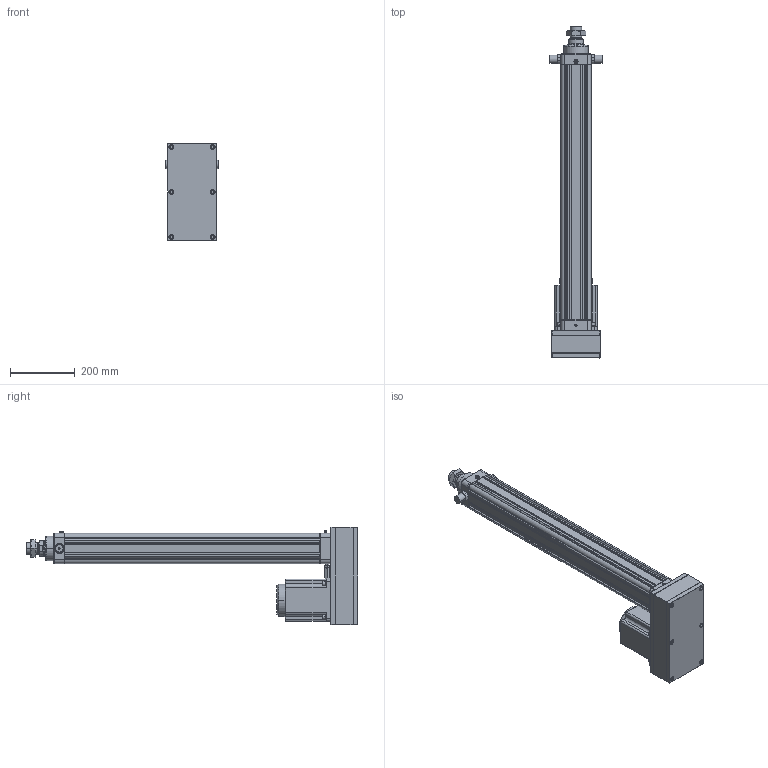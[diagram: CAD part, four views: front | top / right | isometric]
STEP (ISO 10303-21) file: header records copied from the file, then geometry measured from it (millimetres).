
FILE_DESCRIPTION((''),'2;1');
FILE_NAME('HE80-D-P_ASM','2020-05-13T',('ASUS20200'),(''),'CREO PARAMETRIC BY PTC INC, 2014190','CREO PARAMETRIC BY PTC INC, 2014190','');
FILE_SCHEMA(('CONFIG_CONTROL_DESIGN'));
Length unit declared in the file: millimetre
Products named in the file (26): HE80-D-P-001-X1; HE80-D-P-002-X1; HE80-D-P-003-X1; 30304J; YZ-M6X1; SLM-01; JDB506030; HE80-100-D-P-X1_ASM; HE80-P-010-X1-130N; 130ST-M10010; M10X25; HE80-P-009-X1-130N; HE80-P-013-X1-130N; TD-8; M8X35; M8X75; LM-M8-7-5; M10X1-25-40; LM-M10-30; LM-M10; HE80-D-P-005-X1; HE80-D-P-004-X1; HE80-D-P-008-X1; LGLM-M10-25; HE80-TC; HE80-D-P_ASM
Assembly tree (47 placements, depth 3):
  HE80-D-P_ASM
    HE80-100-D-P-X1_ASM
      HE80-D-P-001-X1
      HE80-D-P-002-X1
      HE80-D-P-003-X1
      30304J  x2
      YZ-M6X1
      SLM-01
      JDB506030
    HE80-P-010-X1-130N
    130ST-M10010
    M10X25  x4
    HE80-P-009-X1-130N
    HE80-P-013-X1-130N
    TD-8  x4
    M8X35  x4
    M8X75  x6
    LM-M8-7-5  x4
    M10X1-25-40
    LM-M10-30
    LM-M10
    HE80-D-P-005-X1
    HE80-D-P-004-X1
    HE80-D-P-008-X1
    LGLM-M10-25  x4
    HE80-TC  x2
Bounding box: 163 x 1024 x 300 mm (x, y, z)
Volume: 6715203.3 mm3; surface area: 1566622.5 mm2
Topology: 46 solids, 78 shells, 2387 faces, 5532 edges, 3314 vertices
Faces by surface type: plane 880, cone 725, cylinder 650, torus 102, sphere 26, bspline 4
Entity records: 54333 total; most frequent: CARTESIAN_POINT 10846, DIRECTION 9518, ORIENTED_EDGE 8446, EDGE_CURVE 4284, AXIS2_PLACEMENT_3D 3633, VERTEX_POINT 2574, VECTOR 2252, LINE 2252
